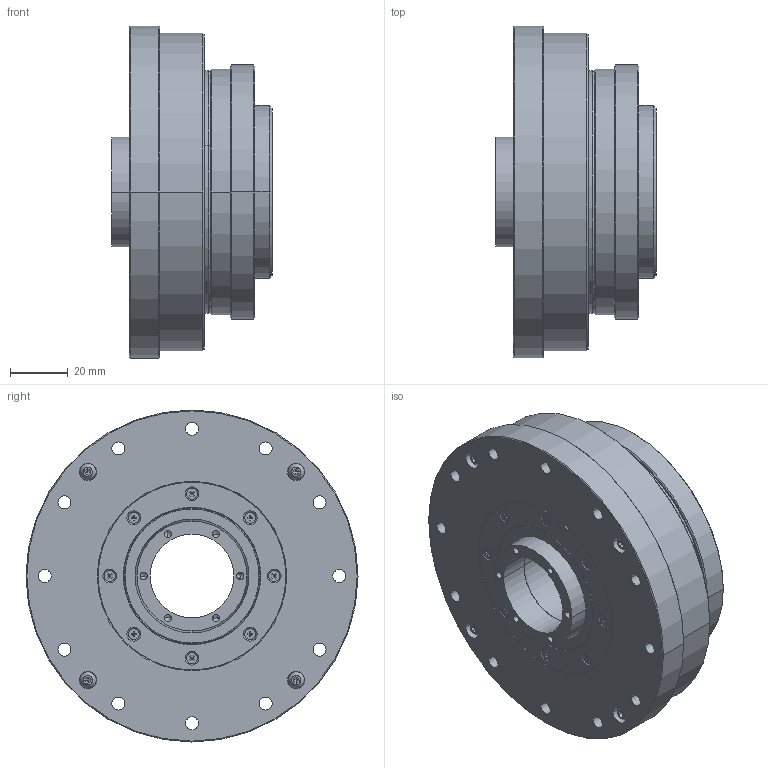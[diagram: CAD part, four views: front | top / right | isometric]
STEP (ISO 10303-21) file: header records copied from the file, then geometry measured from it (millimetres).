
FILE_DESCRIPTION (( 'STEP AP203' ), '1' );
FILE_NAME ('LHSG-25-XXX-CL-III.step', '2025-01-07T07:25:55', ( '' ), ( '' ), 'SwSTEP 2.0', 'SolidWorks 2023', '' );
FILE_SCHEMA (( 'CONFIG_CONTROL_DESIGN' ));
Length unit declared in the file: metre
Products named in the file (1): LHSG-25-XXX-CL-III
Bounding box: 55.5 x 115 x 115 mm (x, y, z)
Volume: 260133.6 mm3; surface area: 192836.8 mm2
Topology: 58 solids, 58 shells, 2032 faces, 5720 edges, 3539 vertices
Faces by surface type: bspline 645, cylinder 612, plane 459, cone 316
Entity records: 80239 total; most frequent: CARTESIAN_POINT 31701, ORIENTED_EDGE 11016, DIRECTION 9264, EDGE_CURVE 5508, AXIS2_PLACEMENT_3D 3916, VERTEX_POINT 3539, CIRCLE 2528, EDGE_LOOP 2411
